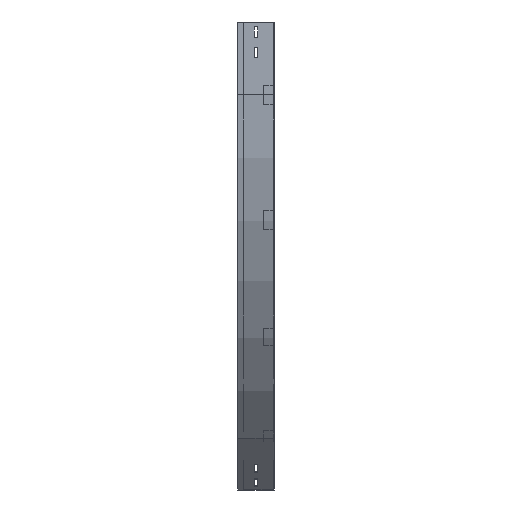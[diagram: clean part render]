
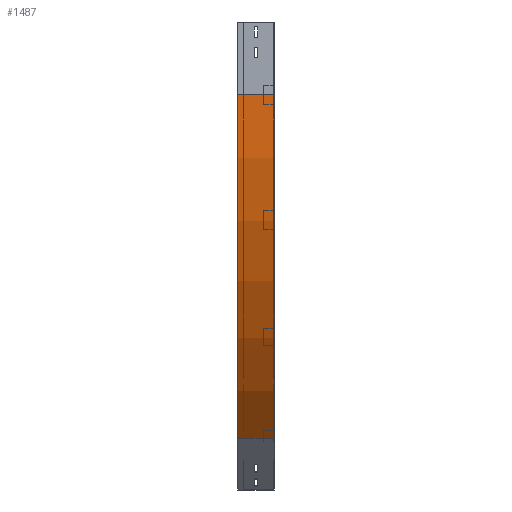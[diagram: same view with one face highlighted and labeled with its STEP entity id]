
A CAD part, left-side view. The second image highlights one B-rep face of the part: STEP entity #1487.
In plain terms, the highlighted cylindrical face has radius 1000 mm (diameter 2000 mm), a partial arc.
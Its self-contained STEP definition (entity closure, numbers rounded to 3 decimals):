
#190 = EDGE_CURVE ( 'NONE', #3688, #3524, #2224, .T. ) ;
#221 = ORIENTED_EDGE ( 'NONE', *, *, #1133, .F. ) ;
#233 = DIRECTION ( 'NONE',  ( 0., -1., 0. ) ) ;
#454 = LINE ( 'NONE', #2459, #2611 ) ;
#509 = CIRCLE ( 'NONE', #1074, 1000. ) ;
#590 = EDGE_CURVE ( 'NONE', #2260, #3688, #509, .T. ) ;
#960 = CARTESIAN_POINT ( 'NONE',  ( 292.893, 0., -857.107 ) ) ;
#1074 = AXIS2_PLACEMENT_3D ( 'NONE', #1231, #2135, #1559 ) ;
#1133 = EDGE_CURVE ( 'NONE', #2260, #1920, #454, .T. ) ;
#1231 = CARTESIAN_POINT ( 'NONE',  ( 1000., 75., -150. ) ) ;
#1272 = CARTESIAN_POINT ( 'NONE',  ( 292.893, 75., -857.107 ) ) ;
#1486 = CARTESIAN_POINT ( 'NONE',  ( 292.893, 0., -857.107 ) ) ;
#1487 = ADVANCED_FACE ( 'NONE', ( #3077 ), #2144, .T. ) ;
#1559 = DIRECTION ( 'NONE',  ( -1., 0., 0. ) ) ;
#1592 = DIRECTION ( 'NONE',  ( 0., -1., 0. ) ) ;
#1699 = CARTESIAN_POINT ( 'NONE',  ( 1000., 0., -150. ) ) ;
#1879 = DIRECTION ( 'NONE',  ( 0., -1., 0. ) ) ;
#1920 = VERTEX_POINT ( 'NONE', #2432 ) ;
#2057 = EDGE_CURVE ( 'NONE', #1920, #3524, #2163, .T. ) ;
#2135 = DIRECTION ( 'NONE',  ( 0., -1., 0. ) ) ;
#2144 = CYLINDRICAL_SURFACE ( 'NONE', #3255, 1000. ) ;
#2163 = CIRCLE ( 'NONE', #3744, 1000. ) ;
#2224 = LINE ( 'NONE', #960, #2540 ) ;
#2260 = VERTEX_POINT ( 'NONE', #3659 ) ;
#2432 = CARTESIAN_POINT ( 'NONE',  ( 0., 0., -150. ) ) ;
#2459 = CARTESIAN_POINT ( 'NONE',  ( 0., 0., -150. ) ) ;
#2540 = VECTOR ( 'NONE', #2731, 1000. ) ;
#2611 = VECTOR ( 'NONE', #1879, 1000. ) ;
#2731 = DIRECTION ( 'NONE',  ( 0., -1., 0. ) ) ;
#2992 = ORIENTED_EDGE ( 'NONE', *, *, #590, .T. ) ;
#3059 = CARTESIAN_POINT ( 'NONE',  ( 1000., 0., -150. ) ) ;
#3077 = FACE_OUTER_BOUND ( 'NONE', #3563, .T. ) ;
#3108 = ORIENTED_EDGE ( 'NONE', *, *, #2057, .F. ) ;
#3150 = DIRECTION ( 'NONE',  ( -1., 0., 0. ) ) ;
#3196 = ORIENTED_EDGE ( 'NONE', *, *, #190, .T. ) ;
#3255 = AXIS2_PLACEMENT_3D ( 'NONE', #3059, #1592, #3685 ) ;
#3524 = VERTEX_POINT ( 'NONE', #1486 ) ;
#3563 = EDGE_LOOP ( 'NONE', ( #3108, #221, #2992, #3196 ) ) ;
#3659 = CARTESIAN_POINT ( 'NONE',  ( 0., 75., -150. ) ) ;
#3685 = DIRECTION ( 'NONE',  ( 0., 0., -1. ) ) ;
#3688 = VERTEX_POINT ( 'NONE', #1272 ) ;
#3744 = AXIS2_PLACEMENT_3D ( 'NONE', #1699, #233, #3150 ) ;
